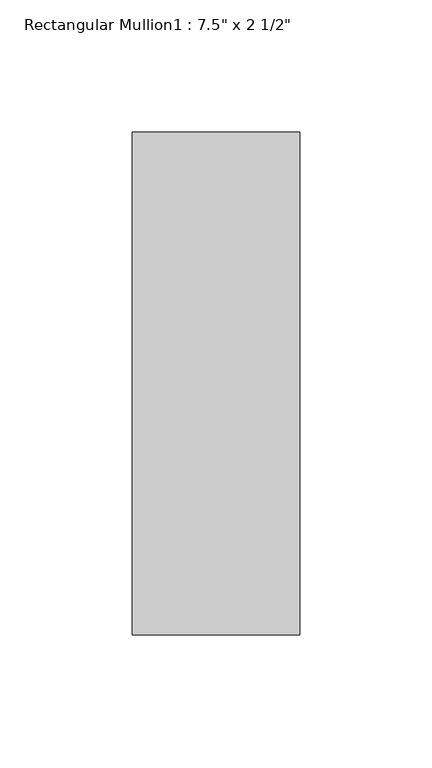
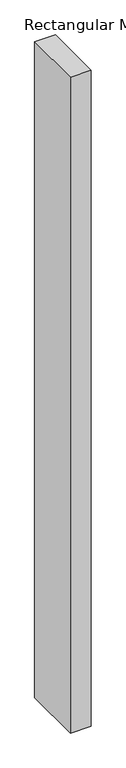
"""IFC4 building model written with IfcOpenShell, lengths in millimetres: member geometry."""

import ifcopenshell
import ifcopenshell.guid

model = None  # the IFC model being written
_history = None  # IfcOwnerHistory: only IFC2X3 demands one
_inside = {}  # id of a spatial element -> (the spatial element, [elements in it])
_under = {}  # id of a project, library or spatial element -> (it, [spatial elements below it])
_declared = {}  # id of a project -> (the project, [libraries it declares])
_typed = {}  # id of a type object -> (the type object, [elements of that type])
_made_of = {}  # id of a material, layer set ... -> (it, [elements and type objects made of it])


def new_model(schema):
    """Start an empty IFC model of exactly this schema.

    Asked for "IFC4X3", IfcOpenShell would pick the latest addendum, in which some entities
    have other attributes; the version numbers below select the first issue.
    IFC2X3 requires an IfcOwnerHistory on every rooted entity: one is made here for all.
    """
    global model, _history
    if schema == "IFC4X3":
        model = ifcopenshell.file(schema_version=(4, 3, 0, 0))
    else:
        model = ifcopenshell.file(schema=schema)
    _inside.clear()
    _under.clear()
    _declared.clear()
    _typed.clear()
    _made_of.clear()
    _history = None
    if model.schema == "IFC2X3":
        org = make("IfcOrganization", Name="unknown")
        user = make(
            "IfcPersonAndOrganization",
            ThePerson=make("IfcPerson", FamilyName="unknown"),
            TheOrganization=org,
        )
        app = make(
            "IfcApplication",
            ApplicationDeveloper=org,
            Version="unknown",
            ApplicationFullName="unknown",
            ApplicationIdentifier="unknown",
        )
        _history = make(
            "IfcOwnerHistory",
            OwningUser=user,
            OwningApplication=app,
            ChangeAction="ADDED",
            CreationDate=0,
        )
    return model


def make(cls, **values):
    """One entity of the class cls with the attributes given. An attribute that is None is left unset."""
    return model.create_entity(
        cls, **{name: value for name, value in values.items() if value is not None}
    )


def rooted(cls, **values):
    """An entity with a GlobalId (a new one), such as an element, a storey or a relation."""
    return make(cls, GlobalId=ifcopenshell.guid.new(), OwnerHistory=_history, **values)


def si_unit(unit_type, name, prefix=None):
    """IfcSIUnit, for example si_unit("LENGTHUNIT", "METRE", prefix="MILLI")."""
    return make("IfcSIUnit", UnitType=unit_type, Prefix=prefix, Name=name)


def assignment(units):
    """IfcUnitAssignment: the units of a project."""
    return None if units is None else make("IfcUnitAssignment", Units=units)


def point(xyz):
    """IfcCartesianPoint."""
    return None if xyz is None else make("IfcCartesianPoint", Coordinates=xyz)


def direction(xyz):
    """IfcDirection."""
    return None if xyz is None else make("IfcDirection", DirectionRatios=xyz)


def frame(location, z_axis=None, x_axis=None):
    """IfcAxis2Placement3D, a coordinate frame: its origin and axes. An axis left out is left unset."""
    return make(
        "IfcAxis2Placement3D",
        Location=point(location),
        Axis=direction(z_axis),
        RefDirection=direction(x_axis),
    )


def origin():
    """The frame at (0, 0, 0) with its axes left unset."""
    return frame((0.0, 0.0, 0.0))


def place(relative_to, where):
    """IfcLocalPlacement: puts the frame where relative to a parent placement (None: the world)."""
    return make(
        "IfcLocalPlacement", PlacementRelTo=relative_to, RelativePlacement=where
    )


def context(
    kind, dimensions, precision=None, world=None, true_north=None, identifier=None
):
    """IfcGeometricRepresentationContext, for example the 3D "Model" context."""
    return make(
        "IfcGeometricRepresentationContext",
        ContextIdentifier=identifier,
        ContextType=kind,
        CoordinateSpaceDimension=dimensions,
        Precision=precision,
        WorldCoordinateSystem=world,
        TrueNorth=true_north,
    )


def project(units=None, contexts=None):
    """IfcProject with its units and contexts."""
    return rooted(
        "IfcProject",
        Name="project",
        RepresentationContexts=contexts,
        UnitsInContext=assignment(units),
    )


def spatial(cls, under=None, at=None, **own):
    """A site, building, storey or space (cls), placed at a placement, below another one or the project."""
    s = rooted(cls, ObjectPlacement=at, **own)
    if under is not None:
        _under.setdefault(under.id(), (under, []))[1].append(s)
    return s


def polyline(points):
    """IfcPolyline through the points."""
    return make("IfcPolyline", Points=[point(p) for p in points])


def outline(outer, holes=None, kind="AREA"):
    """IfcArbitraryClosedProfileDef: a profile drawn as a closed curve; with holes, ...WithVoids."""
    if holes is None:
        return make("IfcArbitraryClosedProfileDef", ProfileType=kind, OuterCurve=outer)
    return make(
        "IfcArbitraryProfileDefWithVoids",
        ProfileType=kind,
        OuterCurve=outer,
        InnerCurves=holes,
    )


def extrude(swept, where, along, depth):
    """IfcExtrudedAreaSolid: the profile swept, set in the frame where, extruded along a direction by depth."""
    return make(
        "IfcExtrudedAreaSolid",
        SweptArea=swept,
        Position=where,
        ExtrudedDirection=direction(along),
        Depth=depth,
    )


def shape(context_of_items, identifier, shape_type, items):
    """IfcShapeRepresentation: the items that make up one representation, for example the "Body"."""
    return make(
        "IfcShapeRepresentation",
        ContextOfItems=context_of_items,
        RepresentationIdentifier=identifier,
        RepresentationType=shape_type,
        Items=items,
    )


def source(mapping_origin, context_of_items, identifier, shape_type, items):
    """IfcRepresentationMap: a shape defined once, which mapped items show again and again."""
    return make(
        "IfcRepresentationMap",
        MappingOrigin=mapping_origin,
        MappedRepresentation=shape(context_of_items, identifier, shape_type, items),
    )


def transform(
    local_origin,
    x_axis=None,
    y_axis=None,
    z_axis=None,
    scale=None,
    scale2=None,
    scale3=None,
    uniform=True,
):
    """IfcCartesianTransformationOperator3D, or its non-uniform kind. x_axis, y_axis, z_axis: its Axis1, 2, 3."""
    if uniform:
        return make(
            "IfcCartesianTransformationOperator3D",
            Axis1=direction(x_axis),
            Axis2=direction(y_axis),
            LocalOrigin=point(local_origin),
            Scale=scale,
            Axis3=direction(z_axis),
        )
    return make(
        "IfcCartesianTransformationOperator3DnonUniform",
        Axis1=direction(x_axis),
        Axis2=direction(y_axis),
        LocalOrigin=point(local_origin),
        Scale=scale,
        Axis3=direction(z_axis),
        Scale2=scale2,
        Scale3=scale3,
    )


def mapped(mapping_source, mapping_target):
    """IfcMappedItem: shows the shape of a source again, moved by a transform."""
    return make(
        "IfcMappedItem", MappingSource=mapping_source, MappingTarget=mapping_target
    )


def made_of(thing, what):
    """Note that an element or type object is made of a material, layer set ...; save() writes the relation."""
    if what is not None:
        _made_of.setdefault(what.id(), (what, []))[1].append(thing)
    return thing


def element(
    cls,
    number,
    at=None,
    inside=None,
    cuts=None,
    type_object=None,
    material=None,
    context=None,
    identifier="Body",
    shape_type=None,
    held_by="IfcProductDefinitionShape",
    body=None,
    shapes=None,
    **own,
):
    """One element of the class cls, such as IfcWall. Its Tag is "e" and its number.

    at: its placement. inside: the storey or other place that contains it. cuts: it is an
    opening in that element (IfcRelVoidsElement). A single representation is given by context,
    identifier, shape_type and body (its items); several are given by shapes. held_by: the class
    of the entity that holds the representations. save() writes the other relations.
    """
    e = rooted(cls, Tag="e%d" % number, ObjectPlacement=at, **own)
    if body is not None:
        shapes = [shape(context, identifier, shape_type, body)]
    if shapes is not None:
        e.Representation = make(held_by, Representations=shapes)
    if inside is not None:
        _inside.setdefault(inside.id(), (inside, []))[1].append(e)
    if cuts is not None:
        rooted(
            "IfcRelVoidsElement", RelatingBuildingElement=cuts, RelatedOpeningElement=e
        )
    if type_object is not None:
        _typed.setdefault(type_object.id(), (type_object, []))[1].append(e)
    return made_of(e, material)


def aggregate(whole, parts):
    """IfcRelAggregates: a whole, such as a stair, and the parts it consists of."""
    return rooted("IfcRelAggregates", RelatingObject=whole, RelatedObjects=parts)


def save(model, path):
    """Write the relations noted so far, then the file.

    IfcRelAggregates (storeys below a building ...), IfcRelContainedInSpatialStructure (elements
    in a storey), IfcRelDefinesByType, IfcRelAssociatesMaterial and IfcRelDeclares: one each for
    every whole, place, type object, material and project.
    """
    for whole, parts in _under.values():
        aggregate(whole, parts)
    for where, things in _inside.values():
        rooted(
            "IfcRelContainedInSpatialStructure",
            RelatedElements=things,
            RelatingStructure=where,
        )
    for kind, things in _typed.values():
        rooted("IfcRelDefinesByType", RelatedObjects=things, RelatingType=kind)
    for what, things in _made_of.values():
        rooted("IfcRelAssociatesMaterial", RelatedObjects=things, RelatingMaterial=what)
    for by, libraries in _declared.values():
        rooted("IfcRelDeclares", RelatingContext=by, RelatedDefinitions=libraries)
    model.write(path)


def member_31dd8f93(model_context):
    return source(origin(), model_context, "Body", "SweptSolid", [
        extrude(outline(polyline([(-63.5, 165.1), (0.0, 165.1), (0.0, -25.4), (-63.5, -25.4), (-63.5, 165.1)])), frame((0.0, 0.0, -2133.6000012), z_axis=(0.0, 0.0, 1.0), x_axis=(1.0, 0.0, 0.0)), (0.0, 0.0, 1.0), 2133.6000012),
    ])


if __name__ == "__main__":
    model = new_model("IFC4")
    model_context = context("Model", 3, world=origin())
    ifc_project = project(units=[si_unit("LENGTHUNIT", "METRE", prefix="MILLI")], contexts=[model_context])
    site = spatial("IfcSite", under=ifc_project)
    building = spatial("IfcBuilding", under=site)
    placement = place(None, origin())
    member_shape = member_31dd8f93(model_context)
    element("IfcMember", 1, ObjectType="Rectangular Mullion1 : 7.5\" x 2 1/2\"", at=placement, inside=building, context=model_context, shape_type="MappedRepresentation", body=[
        mapped(member_shape, transform((0.0, 0.0, 0.0), x_axis=(1.0, 0.0, 0.0), y_axis=(0.0, 1.0, 0.0), z_axis=(0.0, 0.0, 1.0))),
    ])
    save(model, "model.ifc")
